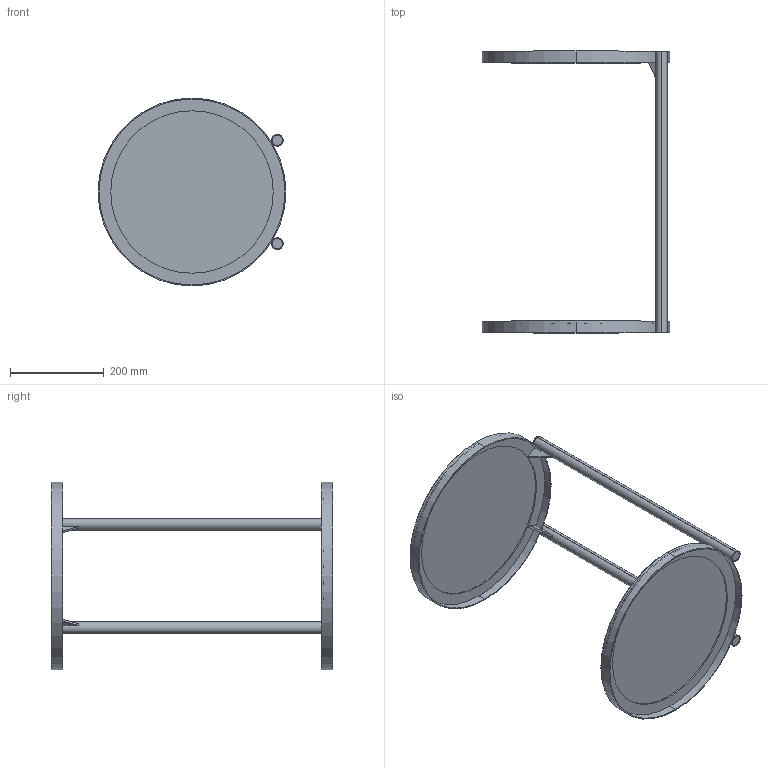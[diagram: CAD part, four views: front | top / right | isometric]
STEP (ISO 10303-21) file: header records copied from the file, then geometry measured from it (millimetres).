
FILE_DESCRIPTION (( 'STEP AP214' ), '1' );
FILE_NAME ('Kark - D400xH600.STEP', '2024-04-04T12:56:29', ( '' ), ( '' ), 'SwSTEP 2.0', 'SolidWorks 2023', '' );
FILE_SCHEMA (( 'AUTOMOTIVE_DESIGN' ));
Length unit declared in the file: millimetre
Products named in the file (3): Metal Frame; Glass; Kark - D400xH600
Assembly tree (3 placements, depth 2):
  Kark - D400xH600
    Metal Frame
    Glass  x2
Bounding box: 400 x 600 x 400 mm (x, y, z)
Volume: 1671766.2 mm3; surface area: 955389 mm2
Topology: 14 solids, 14 shells, 76 faces, 140 edges, 92 vertices
Faces by surface type: cylinder 40, plane 36
Entity records: 2037 total; most frequent: DIRECTION 358, CARTESIAN_POINT 312, ORIENTED_EDGE 268, AXIS2_PLACEMENT_3D 150, EDGE_CURVE 134, VERTEX_POINT 88, EDGE_LOOP 84, CIRCLE 72
